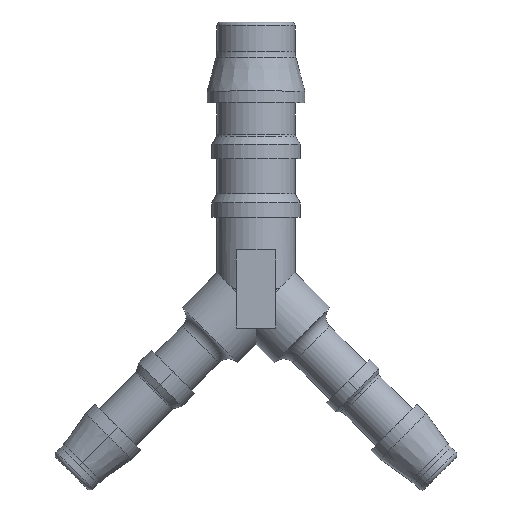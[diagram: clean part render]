
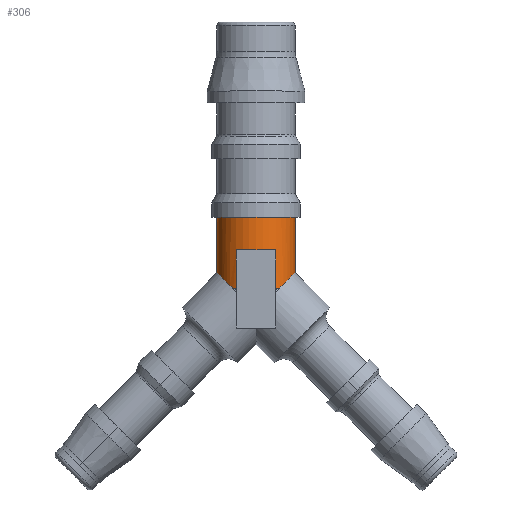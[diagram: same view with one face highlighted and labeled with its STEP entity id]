
A CAD part, top view. The second image highlights one B-rep face of the part: STEP entity #306.
In plain terms, the highlighted cylindrical face has radius 3 mm (diameter 6 mm), a partial arc.
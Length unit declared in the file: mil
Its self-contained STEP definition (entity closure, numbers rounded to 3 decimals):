
#10 = VERTEX_POINT ( 'NONE', #1778 ) ;
#13 = LINE ( 'NONE', #2561, #816 ) ;
#14 = DIRECTION ( 'NONE',  ( 0., 1., 0. ) ) ;
#77 = LINE ( 'NONE', #1984, #2594 ) ;
#99 = CARTESIAN_POINT ( 'NONE',  ( -118.11, 48.923, 0. ) ) ;
#100 = CARTESIAN_POINT ( 'NONE',  ( 113.331, 44.116, 38.877 ) ) ;
#125 = VERTEX_POINT ( 'NONE', #3365 ) ;
#131 = AXIS2_PLACEMENT_3D ( 'NONE', #906, #14, #3161 ) ;
#169 = CARTESIAN_POINT ( 'NONE',  ( 59.055, 118.11, 102.286 ) ) ;
#245 = CARTESIAN_POINT ( 'NONE',  ( -111.832, 42.614, 38.318 ) ) ;
#247 = CARTESIAN_POINT ( 'NONE',  ( 0., 0., 0. ) ) ;
#273 = CARTESIAN_POINT ( 'NONE',  ( 102.824, 33.638, 58.119 ) ) ;
#306 = ADVANCED_FACE ( 'NONE', ( #1360 ), #3499, .T. ) ;
#317 = DIRECTION ( 'NONE',  ( 0., -1., 0. ) ) ;
#322 = VERTEX_POINT ( 'NONE', #99 ) ;
#323 = CARTESIAN_POINT ( 'NONE',  ( 0., 118.11, 118.11 ) ) ;
#335 = CARTESIAN_POINT ( 'NONE',  ( 103.54, 34.353, 56.829 ) ) ;
#412 = DIRECTION ( 'NONE',  ( 0., 1., 0. ) ) ;
#413 = CARTESIAN_POINT ( 'NONE',  ( 69.187, 0., 95.724 ) ) ;
#429 = CIRCLE ( 'NONE', #3592, 118.11 ) ;
#442 = B_SPLINE_CURVE_WITH_KNOTS ( 'NONE', 3,
 ( #515, #3709, #3997, #2082, #245, #2982, #3625, #2679, #1795, #3977, #3689, #1151, #2042, #3292, #1819 ),
 .UNSPECIFIED., .F., .F.,
 ( 4, 2, 2, 1, 1, 1, 2, 2, 4 ),
 ( 0., 0.25, 0.375, 0.438, 0.469, 0.484, 0.492, 0.5, 1. ),
 .UNSPECIFIED. ) ;
#502 = ORIENTED_EDGE ( 'NONE', *, *, #3661, .T. ) ;
#515 = CARTESIAN_POINT ( 'NONE',  ( -118.11, 48.923, 0. ) ) ;
#522 = EDGE_CURVE ( 'NONE', #1006, #2050, #1929, .T. ) ;
#589 = CARTESIAN_POINT ( 'NONE',  ( 83.485, 14.281, 84.008 ) ) ;
#598 = DIRECTION ( 'NONE',  ( 0., 1., 0. ) ) ;
#611 = DIRECTION ( 'NONE',  ( 0., 1., 0. ) ) ;
#629 = CARTESIAN_POINT ( 'NONE',  ( 98.356, 29.169, 65.426 ) ) ;
#653 = CARTESIAN_POINT ( 'NONE',  ( 69.187, 0., 95.724 ) ) ;
#719 = VERTEX_POINT ( 'NONE', #653 ) ;
#816 = VECTOR ( 'NONE', #611, 39370.079 ) ;
#829 = AXIS2_PLACEMENT_3D ( 'NONE', #247, #598, #3106 ) ;
#906 = CARTESIAN_POINT ( 'NONE',  ( 0., 216.535, 0. ) ) ;
#935 = ORIENTED_EDGE ( 'NONE', *, *, #1135, .T. ) ;
#966 = ORIENTED_EDGE ( 'NONE', *, *, #2599, .T. ) ;
#1006 = VERTEX_POINT ( 'NONE', #1629 ) ;
#1020 = DIRECTION ( 'NONE',  ( 0., -1., 0. ) ) ;
#1135 = EDGE_CURVE ( 'NONE', #322, #1843, #442, .T. ) ;
#1151 = CARTESIAN_POINT ( 'NONE',  ( -103.813, 34.625, 56.329 ) ) ;
#1282 = EDGE_CURVE ( 'NONE', #125, #1791, #2564, .T. ) ;
#1291 = DIRECTION ( 'NONE',  ( 0., 0., 1. ) ) ;
#1345 = VECTOR ( 'NONE', #1020, 39370.079 ) ;
#1360 = FACE_OUTER_BOUND ( 'NONE', #2647, .T. ) ;
#1361 = CARTESIAN_POINT ( 'NONE',  ( 94.744, 25.551, 70.65 ) ) ;
#1374 = CARTESIAN_POINT ( 'NONE',  ( -118.11, 216.535, 0. ) ) ;
#1400 = AXIS2_PLACEMENT_3D ( 'NONE', #3027, #3919, #2062 ) ;
#1444 = EDGE_CURVE ( 'NONE', #125, #322, #3844, .T. ) ;
#1572 = CARTESIAN_POINT ( 'NONE',  ( 100.075, 30.891, 62.789 ) ) ;
#1616 = CIRCLE ( 'NONE', #829, 118.11 ) ;
#1629 = CARTESIAN_POINT ( 'NONE',  ( -59.055, 118.11, 102.286 ) ) ;
#1670 = LINE ( 'NONE', #1845, #3520 ) ;
#1778 = CARTESIAN_POINT ( 'NONE',  ( -59.055, 0., 102.286 ) ) ;
#1791 = VERTEX_POINT ( 'NONE', #2347 ) ;
#1795 = CARTESIAN_POINT ( 'NONE',  ( -104.729, 35.538, 54.612 ) ) ;
#1808 = CARTESIAN_POINT ( 'NONE',  ( 118.11, 48.923, 0. ) ) ;
#1819 = CARTESIAN_POINT ( 'NONE',  ( -69.187, 0., 95.724 ) ) ;
#1843 = VERTEX_POINT ( 'NONE', #2676 ) ;
#1845 = CARTESIAN_POINT ( 'NONE',  ( 118.11, 216.535, 0. ) ) ;
#1917 = CARTESIAN_POINT ( 'NONE',  ( 0., 118.11, 0. ) ) ;
#1929 = CIRCLE ( 'NONE', #1400, 118.11 ) ;
#1984 = CARTESIAN_POINT ( 'NONE',  ( 59.055, 0., 102.286 ) ) ;
#2042 = CARTESIAN_POINT ( 'NONE',  ( -95.876, 26.712, 70.882 ) ) ;
#2050 = VERTEX_POINT ( 'NONE', #323 ) ;
#2062 = DIRECTION ( 'NONE',  ( -0.5, 0., 0.866 ) ) ;
#2082 = CARTESIAN_POINT ( 'NONE',  ( -113.337, 44.116, 33.598 ) ) ;
#2097 = EDGE_CURVE ( 'NONE', #10, #1006, #13, .T. ) ;
#2130 = CIRCLE ( 'NONE', #3176, 118.11 ) ;
#2213 = ORIENTED_EDGE ( 'NONE', *, *, #2850, .T. ) ;
#2238 = CARTESIAN_POINT ( 'NONE',  ( 0., -40.354, 0. ) ) ;
#2347 = CARTESIAN_POINT ( 'NONE',  ( 118.11, 216.535, 0. ) ) ;
#2355 = B_SPLINE_CURVE_WITH_KNOTS ( 'NONE', 3,
 ( #413, #2497, #589, #3422, #1361, #629, #1572, #2540, #273, #3154, #3757, #335, #100, #2789, #4053 ),
 .UNSPECIFIED., .F., .F.,
 ( 4, 2, 2, 1, 1, 1, 2, 2, 4 ),
 ( 0., 0.25, 0.375, 0.437, 0.469, 0.484, 0.492, 0.5, 1. ),
 .UNSPECIFIED. ) ;
#2405 = VERTEX_POINT ( 'NONE', #1808 ) ;
#2497 = CARTESIAN_POINT ( 'NONE',  ( 76.791, 7.604, 90.228 ) ) ;
#2510 = CARTESIAN_POINT ( 'NONE',  ( 59.055, 0., 102.286 ) ) ;
#2540 = CARTESIAN_POINT ( 'NONE',  ( 101.932, 32.748, 59.68 ) ) ;
#2561 = CARTESIAN_POINT ( 'NONE',  ( -59.055, 0., 102.286 ) ) ;
#2564 = CIRCLE ( 'NONE', #131, 118.11 ) ;
#2569 = EDGE_CURVE ( 'NONE', #1791, #2405, #1670, .T. ) ;
#2594 = VECTOR ( 'NONE', #4073, 39370.079 ) ;
#2599 = EDGE_CURVE ( 'NONE', #719, #2405, #2355, .T. ) ;
#2645 = AXIS2_PLACEMENT_3D ( 'NONE', #2238, #412, #3563 ) ;
#2647 = EDGE_LOOP ( 'NONE', ( #2213, #3334, #3777, #502, #3369, #3987, #966, #3037, #2978, #4050, #935 ) ) ;
#2676 = CARTESIAN_POINT ( 'NONE',  ( -69.187, 0., 95.724 ) ) ;
#2679 = CARTESIAN_POINT ( 'NONE',  ( -105.735, 36.541, 52.658 ) ) ;
#2745 = VERTEX_POINT ( 'NONE', #169 ) ;
#2789 = CARTESIAN_POINT ( 'NONE',  ( 118.11, 48.923, 19.181 ) ) ;
#2850 = EDGE_CURVE ( 'NONE', #1843, #10, #429, .T. ) ;
#2882 = EDGE_CURVE ( 'NONE', #2965, #719, #1616, .T. ) ;
#2965 = VERTEX_POINT ( 'NONE', #2510 ) ;
#2978 = ORIENTED_EDGE ( 'NONE', *, *, #1282, .F. ) ;
#2982 = CARTESIAN_POINT ( 'NONE',  ( -109.119, 39.911, 45.269 ) ) ;
#3027 = CARTESIAN_POINT ( 'NONE',  ( 0., 118.11, 0. ) ) ;
#3037 = ORIENTED_EDGE ( 'NONE', *, *, #2569, .F. ) ;
#3073 = CARTESIAN_POINT ( 'NONE',  ( 0., 0., 0. ) ) ;
#3106 = DIRECTION ( 'NONE',  ( 0.5, 0., 0.866 ) ) ;
#3129 = DIRECTION ( 'NONE',  ( 0., 1., 0. ) ) ;
#3154 = CARTESIAN_POINT ( 'NONE',  ( 103.198, 34.012, 57.448 ) ) ;
#3161 = DIRECTION ( 'NONE',  ( -1., 0., 0. ) ) ;
#3176 = AXIS2_PLACEMENT_3D ( 'NONE', #1917, #3850, #1291 ) ;
#3292 = CARTESIAN_POINT ( 'NONE',  ( -84.398, 15.211, 84.73 ) ) ;
#3334 = ORIENTED_EDGE ( 'NONE', *, *, #2097, .T. ) ;
#3365 = CARTESIAN_POINT ( 'NONE',  ( -118.11, 216.535, 0. ) ) ;
#3369 = ORIENTED_EDGE ( 'NONE', *, *, #4044, .F. ) ;
#3422 = CARTESIAN_POINT ( 'NONE',  ( 92.106, 22.907, 74.066 ) ) ;
#3499 = CYLINDRICAL_SURFACE ( 'NONE', #2645, 118.11 ) ;
#3520 = VECTOR ( 'NONE', #317, 39370.079 ) ;
#3563 = DIRECTION ( 'NONE',  ( 1., 0., 0. ) ) ;
#3592 = AXIS2_PLACEMENT_3D ( 'NONE', #3073, #3129, #3734 ) ;
#3625 = CARTESIAN_POINT ( 'NONE',  ( -107.648, 38.446, 48.712 ) ) ;
#3661 = EDGE_CURVE ( 'NONE', #2050, #2745, #2130, .T. ) ;
#3689 = CARTESIAN_POINT ( 'NONE',  ( -103.991, 34.803, 56. ) ) ;
#3709 = CARTESIAN_POINT ( 'NONE',  ( -118.11, 48.923, 9.589 ) ) ;
#3734 = DIRECTION ( 'NONE',  ( -0.586, 0., 0.81 ) ) ;
#3757 = CARTESIAN_POINT ( 'NONE',  ( 103.446, 34.259, 57.001 ) ) ;
#3777 = ORIENTED_EDGE ( 'NONE', *, *, #522, .T. ) ;
#3844 = LINE ( 'NONE', #1374, #1345 ) ;
#3850 = DIRECTION ( 'NONE',  ( 0., 1., 0. ) ) ;
#3919 = DIRECTION ( 'NONE',  ( 0., 1., 0. ) ) ;
#3977 = CARTESIAN_POINT ( 'NONE',  ( -104.288, 35.098, 55.445 ) ) ;
#3987 = ORIENTED_EDGE ( 'NONE', *, *, #2882, .T. ) ;
#3997 = CARTESIAN_POINT ( 'NONE',  ( -116.936, 47.721, 19.301 ) ) ;
#4044 = EDGE_CURVE ( 'NONE', #2965, #2745, #77, .T. ) ;
#4050 = ORIENTED_EDGE ( 'NONE', *, *, #1444, .T. ) ;
#4053 = CARTESIAN_POINT ( 'NONE',  ( 118.11, 48.923, 0. ) ) ;
#4073 = DIRECTION ( 'NONE',  ( 0., 1., 0. ) ) ;
